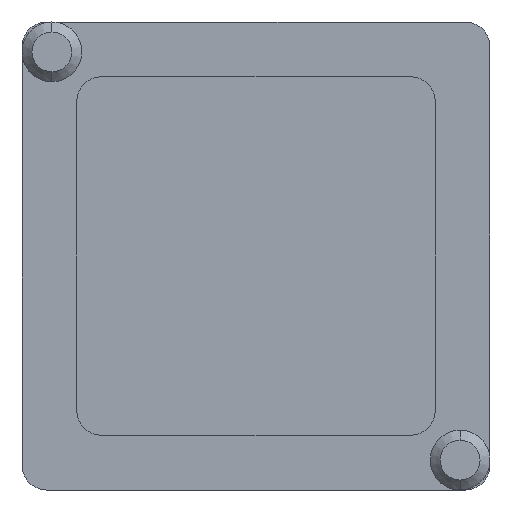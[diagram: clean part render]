
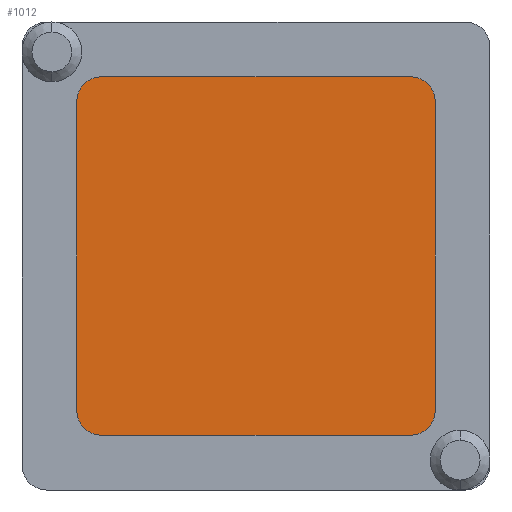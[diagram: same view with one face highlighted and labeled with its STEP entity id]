
A CAD part, front view. The second image highlights one B-rep face of the part: STEP entity #1012.
In plain terms, the highlighted planar face has unit normal (0, -1, 0).
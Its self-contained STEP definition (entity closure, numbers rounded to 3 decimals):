
#7 = ORIENTED_EDGE ( 'NONE', *, *, #1019, .T. ) ;
#16 = VECTOR ( 'NONE', #431, 1000. ) ;
#30 = EDGE_CURVE ( 'NONE', #279, #668, #1114, .T. ) ;
#35 = DIRECTION ( 'NONE',  ( 0., -1., 0. ) ) ;
#41 = DIRECTION ( 'NONE',  ( 0., 0., 1. ) ) ;
#95 = CARTESIAN_POINT ( 'NONE',  ( 3.9, 2.2, -4.15 ) ) ;
#115 = CIRCLE ( 'NONE', #766, 0.25 ) ;
#143 = CARTESIAN_POINT ( 'NONE',  ( 0.55, 2.2, -0.8 ) ) ;
#258 = CARTESIAN_POINT ( 'NONE',  ( 0.8, 2.2, -0.55 ) ) ;
#270 = DIRECTION ( 'NONE',  ( 0., 0., 1. ) ) ;
#279 = VERTEX_POINT ( 'NONE', #321 ) ;
#286 = EDGE_LOOP ( 'NONE', ( #405, #7, #296, #1218, #537, #855, #1222, #1132 ) ) ;
#290 = CIRCLE ( 'NONE', #915, 0.25 ) ;
#296 = ORIENTED_EDGE ( 'NONE', *, *, #943, .T. ) ;
#304 = DIRECTION ( 'NONE',  ( 0., 0., 1. ) ) ;
#308 = CARTESIAN_POINT ( 'NONE',  ( 4.15, 2.2, -0.8 ) ) ;
#316 = VERTEX_POINT ( 'NONE', #1276 ) ;
#321 = CARTESIAN_POINT ( 'NONE',  ( 4.15, 2.2, -3.9 ) ) ;
#326 = CARTESIAN_POINT ( 'NONE',  ( 4.15, 2.2, -0.55 ) ) ;
#336 = VERTEX_POINT ( 'NONE', #450 ) ;
#349 = DIRECTION ( 'NONE',  ( 0., -1., 0. ) ) ;
#360 = VERTEX_POINT ( 'NONE', #143 ) ;
#384 = VECTOR ( 'NONE', #458, 1000. ) ;
#396 = EDGE_CURVE ( 'NONE', #360, #336, #1297, .T. ) ;
#402 = VECTOR ( 'NONE', #304, 1000. ) ;
#405 = ORIENTED_EDGE ( 'NONE', *, *, #30, .T. ) ;
#431 = DIRECTION ( 'NONE',  ( 0., 0., -1. ) ) ;
#442 = CARTESIAN_POINT ( 'NONE',  ( 3.9, 2.2, -0.8 ) ) ;
#450 = CARTESIAN_POINT ( 'NONE',  ( 0.55, 2.2, -3.9 ) ) ;
#458 = DIRECTION ( 'NONE',  ( 1., 0., 0. ) ) ;
#501 = EDGE_CURVE ( 'NONE', #1198, #360, #851, .T. ) ;
#537 = ORIENTED_EDGE ( 'NONE', *, *, #396, .T. ) ;
#544 = EDGE_CURVE ( 'NONE', #336, #316, #290, .T. ) ;
#561 = DIRECTION ( 'NONE',  ( 0., -1., 0. ) ) ;
#568 = LINE ( 'NONE', #326, #972 ) ;
#586 = LINE ( 'NONE', #1113, #384 ) ;
#655 = DIRECTION ( 'NONE',  ( -1., 0., 0. ) ) ;
#668 = VERTEX_POINT ( 'NONE', #308 ) ;
#725 = VERTEX_POINT ( 'NONE', #95 ) ;
#749 = AXIS2_PLACEMENT_3D ( 'NONE', #767, #349, #890 ) ;
#766 = AXIS2_PLACEMENT_3D ( 'NONE', #1097, #1115, #775 ) ;
#767 = CARTESIAN_POINT ( 'NONE',  ( 0.8, 2.2, -0.8 ) ) ;
#775 = DIRECTION ( 'NONE',  ( 0., 0., 1. ) ) ;
#800 = DIRECTION ( 'NONE',  ( 0., -1., 0. ) ) ;
#818 = CARTESIAN_POINT ( 'NONE',  ( 4.15, 2.2, -4.15 ) ) ;
#850 = CARTESIAN_POINT ( 'NONE',  ( 0.55, 2.2, -0.55 ) ) ;
#851 = CIRCLE ( 'NONE', #749, 0.25 ) ;
#855 = ORIENTED_EDGE ( 'NONE', *, *, #544, .T. ) ;
#866 = PLANE ( 'NONE',  #1185 ) ;
#890 = DIRECTION ( 'NONE',  ( 0., 0., 1. ) ) ;
#915 = AXIS2_PLACEMENT_3D ( 'NONE', #1102, #800, #270 ) ;
#943 = EDGE_CURVE ( 'NONE', #1345, #1198, #568, .T. ) ;
#972 = VECTOR ( 'NONE', #655, 1000. ) ;
#982 = CARTESIAN_POINT ( 'NONE',  ( 0., 2.2, 0. ) ) ;
#989 = DIRECTION ( 'NONE',  ( 0., 0., -1. ) ) ;
#1012 = ADVANCED_FACE ( 'NONE', ( #1309 ), #866, .T. ) ;
#1019 = EDGE_CURVE ( 'NONE', #668, #1345, #1241, .T. ) ;
#1056 = CARTESIAN_POINT ( 'NONE',  ( 3.9, 2.2, -0.55 ) ) ;
#1084 = EDGE_CURVE ( 'NONE', #725, #279, #115, .T. ) ;
#1097 = CARTESIAN_POINT ( 'NONE',  ( 3.9, 2.2, -3.9 ) ) ;
#1102 = CARTESIAN_POINT ( 'NONE',  ( 0.8, 2.2, -3.9 ) ) ;
#1113 = CARTESIAN_POINT ( 'NONE',  ( 0.55, 2.2, -4.15 ) ) ;
#1114 = LINE ( 'NONE', #818, #402 ) ;
#1115 = DIRECTION ( 'NONE',  ( 0., -1., 0. ) ) ;
#1132 = ORIENTED_EDGE ( 'NONE', *, *, #1084, .T. ) ;
#1185 = AXIS2_PLACEMENT_3D ( 'NONE', #982, #35, #989 ) ;
#1198 = VERTEX_POINT ( 'NONE', #258 ) ;
#1218 = ORIENTED_EDGE ( 'NONE', *, *, #501, .T. ) ;
#1222 = ORIENTED_EDGE ( 'NONE', *, *, #1225, .T. ) ;
#1225 = EDGE_CURVE ( 'NONE', #316, #725, #586, .T. ) ;
#1241 = CIRCLE ( 'NONE', #1313, 0.25 ) ;
#1276 = CARTESIAN_POINT ( 'NONE',  ( 0.8, 2.2, -4.15 ) ) ;
#1297 = LINE ( 'NONE', #850, #16 ) ;
#1309 = FACE_OUTER_BOUND ( 'NONE', #286, .T. ) ;
#1313 = AXIS2_PLACEMENT_3D ( 'NONE', #442, #561, #41 ) ;
#1345 = VERTEX_POINT ( 'NONE', #1056 ) ;
